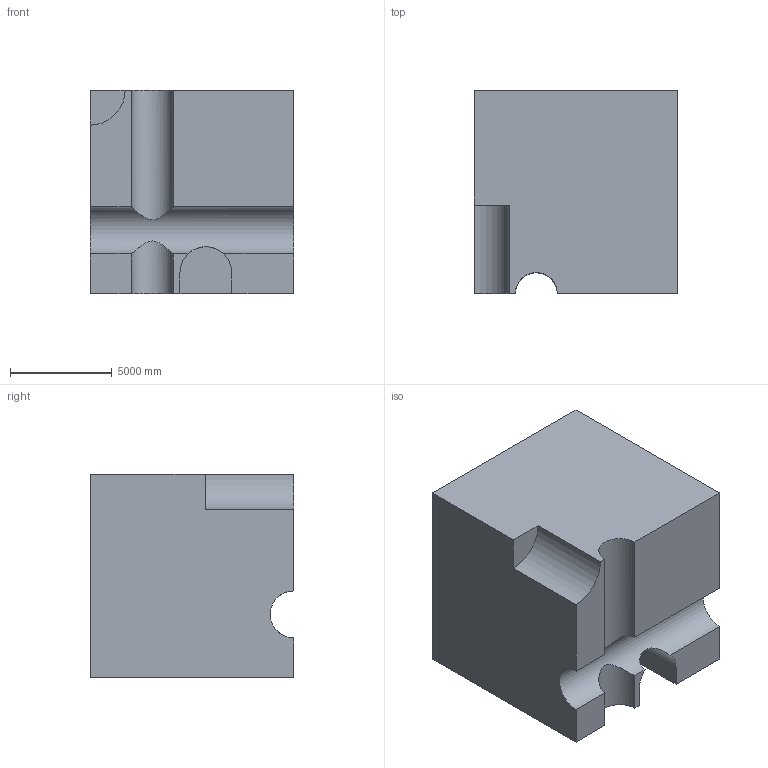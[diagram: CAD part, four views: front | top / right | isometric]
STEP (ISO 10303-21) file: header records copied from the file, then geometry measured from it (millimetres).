
FILE_DESCRIPTION (( 'STEP AP203' ), '1' );
FILE_NAME ('399.STEP', '2022-07-29T11:07:42', ( 'user' ), ( '' ), 'SwSTEP 2.0', 'SolidWorks 2021', '' );
FILE_SCHEMA (( 'CONFIG_CONTROL_DESIGN' ));
Length unit declared in the file: centimetre
Products named in the file (1): 399
Bounding box: 10000 x 10000 x 10000 mm (x, y, z)
Volume: 922668706510.9 mm3; surface area: 629989335.7 mm2
Topology: 1 solids, 1 shells, 19 faces, 51 edges, 34 vertices
Faces by surface type: plane 14, cylinder 5
Entity records: 1152 total; most frequent: CARTESIAN_POINT 592, ORIENTED_EDGE 102, DIRECTION 97, EDGE_CURVE 51, LINE 39, VECTOR 39, VERTEX_POINT 34, AXIS2_PLACEMENT_3D 29
